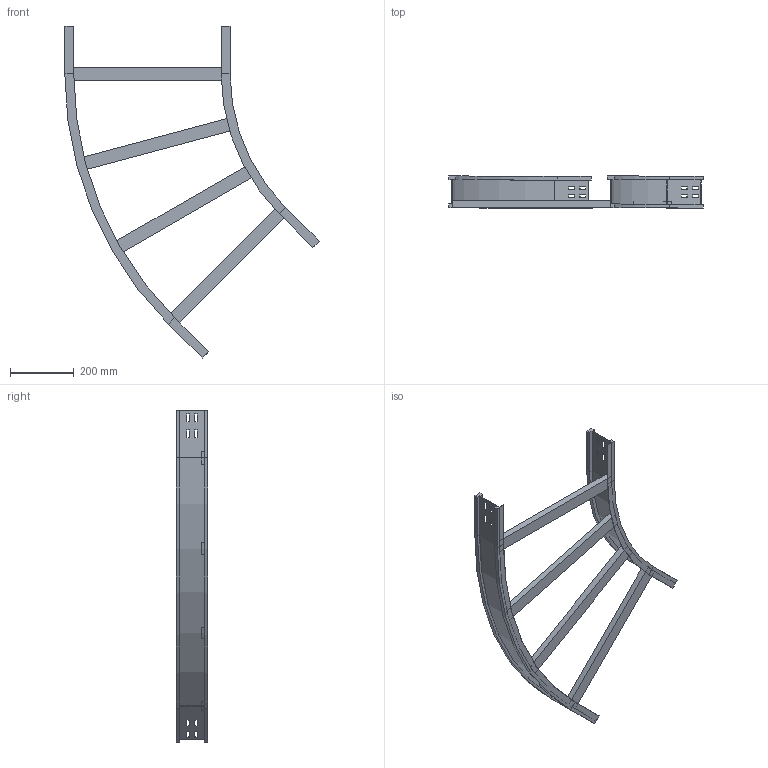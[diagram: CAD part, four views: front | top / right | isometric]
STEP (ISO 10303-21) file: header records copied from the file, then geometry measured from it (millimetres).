
FILE_DESCRIPTION (( 'STEP AP214' ), '1' );
FILE_NAME ('11S6D500.step', '2025-02-21T16:03:48', ( '' ), ( '' ), 'SwSTEP 2.0', 'SolidWorks 2023', '' );
FILE_SCHEMA (( 'AUTOMOTIVE_DESIGN' ));
Length unit declared in the file: millimetre
Products named in the file (4): 11S6D500; LONGH.INTERNO 45°_H100_R600; TRAVERSINO_500; LONGH.ESTERNO 45°_H100_R600+500
Assembly tree (6 placements, depth 2):
  11S6D500
    LONGH.INTERNO 45°_H100_R600
    LONGH.ESTERNO 45°_H100_R600+500
    TRAVERSINO_500  x4
Bounding box: 797.17 x 100 x 1040.25 mm (x, y, z)
Volume: 2631007.5 mm3; surface area: 818328.5 mm2
Topology: 6 solids, 6 shells, 164 faces, 408 edges, 256 vertices
Faces by surface type: plane 152, cylinder 12
Entity records: 4485 total; most frequent: CARTESIAN_POINT 759, ORIENTED_EDGE 744, DIRECTION 706, EDGE_CURVE 372, VECTOR 348, LINE 348, VERTEX_POINT 232, AXIS2_PLACEMENT_3D 179
